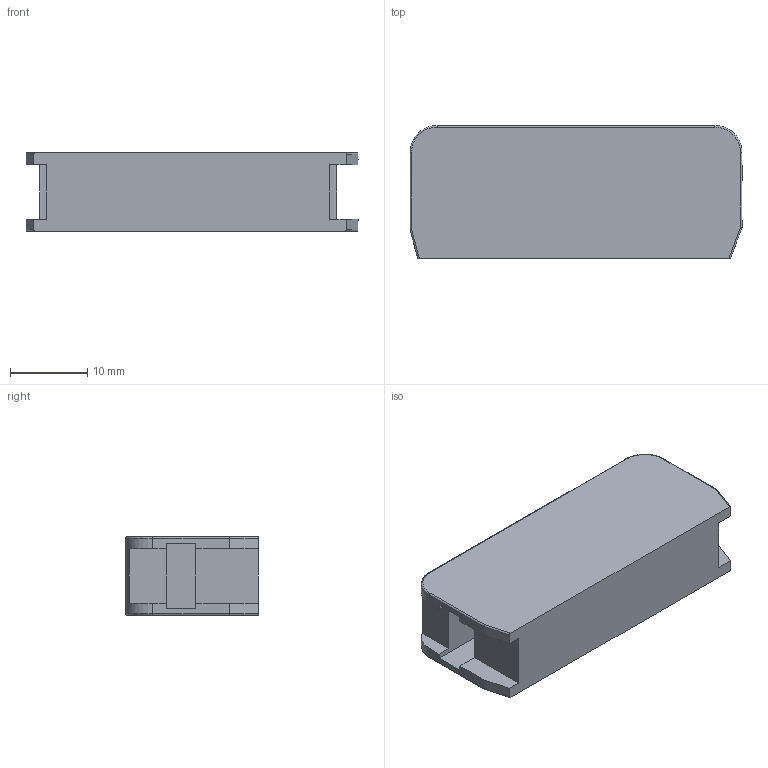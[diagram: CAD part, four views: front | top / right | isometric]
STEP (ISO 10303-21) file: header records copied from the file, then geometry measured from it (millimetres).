
FILE_DESCRIPTION (( 'STEP AP203' ), '1' );
FILE_NAME ('HN.STEP', '2009-10-30T06:05:02', ( 'Gutermuth' ), ( 'Benedict GmbH' ), 'SwSTEP 2.0', 'SolidWorks 2010', '' );
FILE_SCHEMA (( 'CONFIG_CONTROL_DESIGN' ));
Length unit declared in the file: millimetre
Products named in the file (1): HN
Bounding box: 43 x 17.2 x 10.2 mm (x, y, z)
Volume: 5854.1 mm3; surface area: 3327.9 mm2
Topology: 1 solids, 1 shells, 54 faces, 144 edges, 92 vertices
Faces by surface type: plane 34, cylinder 16, bspline 4
Entity records: 1821 total; most frequent: CARTESIAN_POINT 421, ORIENTED_EDGE 288, DIRECTION 258, EDGE_CURVE 144, VECTOR 108, LINE 108, VERTEX_POINT 92, AXIS2_PLACEMENT_3D 75
